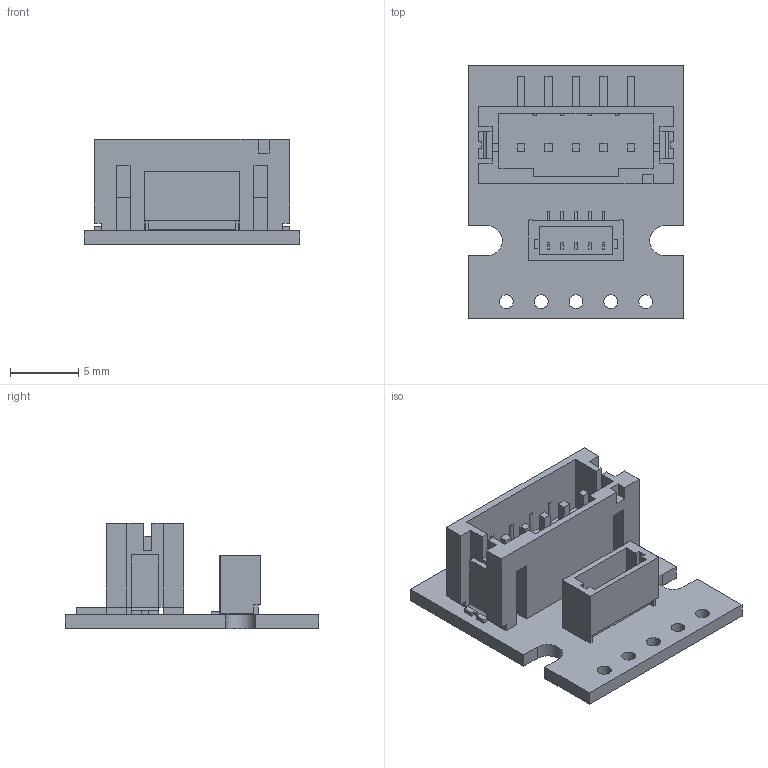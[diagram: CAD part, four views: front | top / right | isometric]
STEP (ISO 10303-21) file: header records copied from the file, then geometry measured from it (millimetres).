
FILE_DESCRIPTION (( 'STEP AP214' ), '1' );
FILE_NAME ('con11a_top_entry.STEP', '2025-08-19T02:24:19', ( '' ), ( '' ), 'SwSTEP 2.0', 'SolidWorks 2025', '' );
FILE_SCHEMA (( 'AUTOMOTIVE_DESIGN' ));
Length unit declared in the file: millimetre
Products named in the file (1): con11a_top_entry
Bounding box: 15.75 x 18.54 x 7.69 mm (x, y, z)
Volume: 605.9 mm3; surface area: 1451.6 mm2
Topology: 1 solids, 1 shells, 628 faces, 1758 edges, 1166 vertices
Faces by surface type: plane 439, bspline 168, cylinder 21
Entity records: 33143 total; most frequent: CARTESIAN_POINT 11073, ORIENTED_EDGE 3516, DIRECTION 2386, EDGE_CURVE 1758, LINE 1380, VECTOR 1380, VERTEX_POINT 1166, EDGE_LOOP 706
